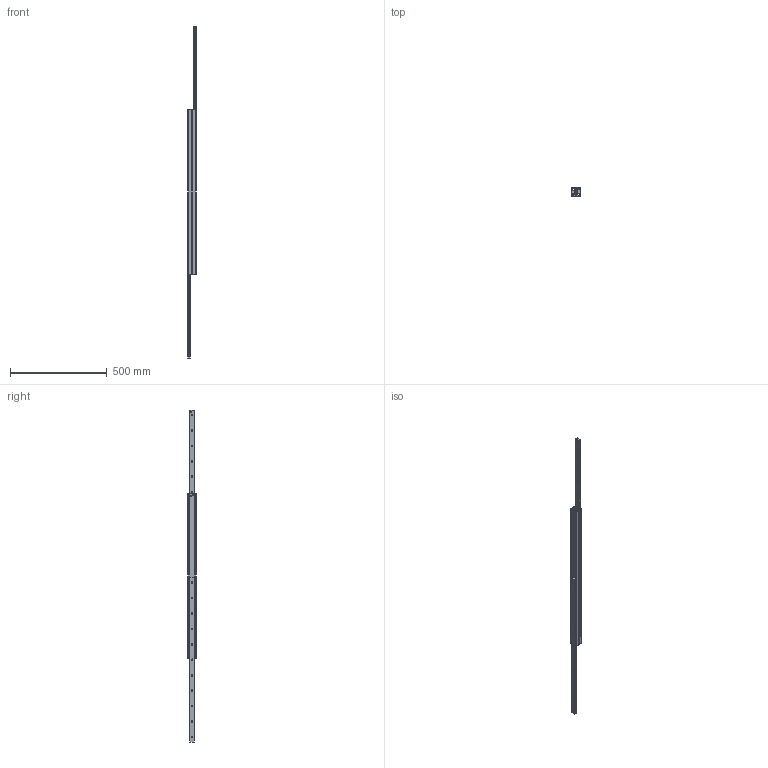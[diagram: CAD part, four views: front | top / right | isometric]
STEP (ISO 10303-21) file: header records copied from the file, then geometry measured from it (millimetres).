
FILE_DESCRIPTION( ( 'STEP AP214' ), '1' );
FILE_NAME( 'p:/temp/worker_87/temp/exporttempdir_3488_696_kEcXW/format_0/DEF43-850866.stp', '2020-03-20T19:55:17', ( 'License CC BY-ND 4.0' ), ( 'CADENAS' ), ' ', 'PARTsolutions', ' ' );
FILE_SCHEMA( ( 'AUTOMOTIVE_DESIGN { 1 0 10303 214 1 1 1 1 }' ) );
Length unit declared in the file: millimetre
Products named in the file (4): DEF43-850866; _432185086612-gf; _43218508661-ei; _432185086611-gf
Assembly tree (4 placements, depth 2):
  DEF43-850866
    _432185086612-gf
    _43218508661-ei  x2
    _432185086611-gf
Bounding box: 44 x 43 x 1716 mm (x, y, z)
Volume: 1050834.3 mm3; surface area: 401651.7 mm2
Topology: 4 solids, 4 shells, 218 faces, 546 edges, 348 vertices
Faces by surface type: plane 102, cylinder 68, cone 48
Full cylindrical faces by diameter (mm): 4.134 x2, 6.647 x22, 7 x2
Entity records: 6200 total; most frequent: DIRECTION 856, CARTESIAN_POINT 791, ORIENTED_EDGE 702, EDGE_CURVE 351, AXIS2_PLACEMENT_3D 330, EDGE_LOOP 292, VERTEX_POINT 265, LINE 196
